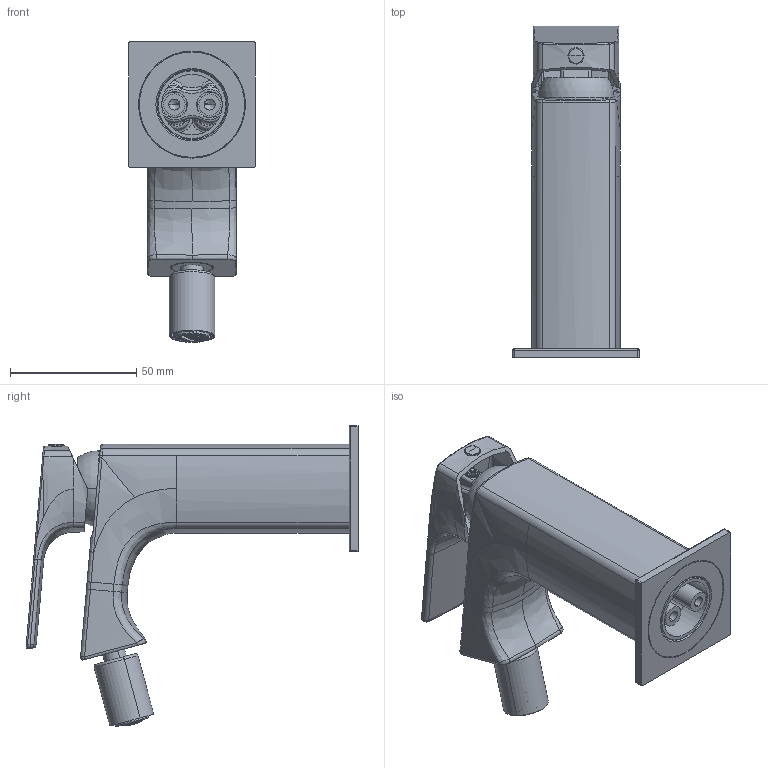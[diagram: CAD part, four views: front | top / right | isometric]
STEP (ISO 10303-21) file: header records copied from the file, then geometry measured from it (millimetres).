
FILE_DESCRIPTION((''),'2;1');
FILE_NAME('75080_SW0001','2024-10-07T09:36:14',('volponeff'),(''),'CREO PARAMETRIC BY PTC INC, 2022014','CREO PARAMETRIC BY PTC INC, 2022014','');
FILE_SCHEMA(('CONFIG_CONTROL_DESIGN'));
Length unit declared in the file: millimetre
Products named in the file (1): 75080_SW0001
Bounding box: 50 x 131.54 x 119.21 mm (x, y, z)
Volume: 111074.7 mm3; surface area: 71005.8 mm2
Topology: 2 solids, 2 shells, 3787 faces, 10682 edges, 6888 vertices
Faces by surface type: plane 2019, cylinder 661, torus 516, bspline 376, sphere 111, cone 101, extrusion 3
Entity records: 175188 total; most frequent: CARTESIAN_POINT 84908, ORIENTED_EDGE 21198, DIRECTION 15585, EDGE_CURVE 10599, VERTEX_POINT 6888, AXIS2_PLACEMENT_3D 5960, B_SPLINE_CURVE_WITH_KNOTS 4388, EDGE_LOOP 4189
